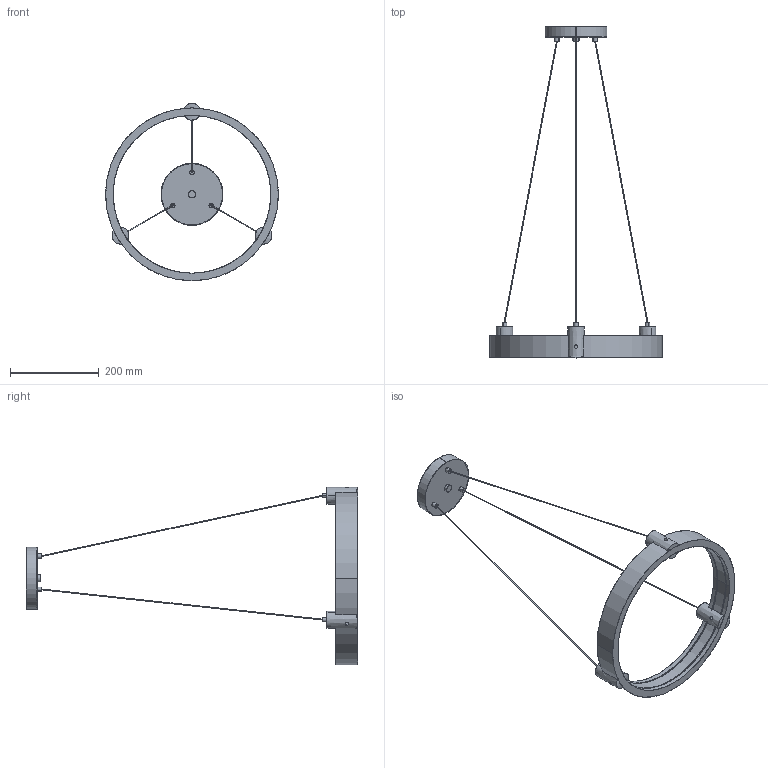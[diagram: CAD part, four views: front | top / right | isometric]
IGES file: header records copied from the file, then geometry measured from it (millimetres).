
Start section: SolidWorks IGES file using analytic representation for surfaces
Global section: file name: F:\燠隴矨\3D\2026-3\Celestial Orbit Travertine Chandelier-D39cm.IGS,15; native system: HSolidWorks 2022; preprocessor: SolidWorks 2022; author: MyPC; date: 260325.162203; units: millimetre
Bounding box: 390 x 749.28 x 400.5 mm (x, y, z)
Surface area: 264618.8 mm2 (no closed solid volume)
Topology: 0 solids, 0 shells, 97 faces, 2608 edges, 2608 vertices
Faces by surface type: revolution 56, bspline 41
